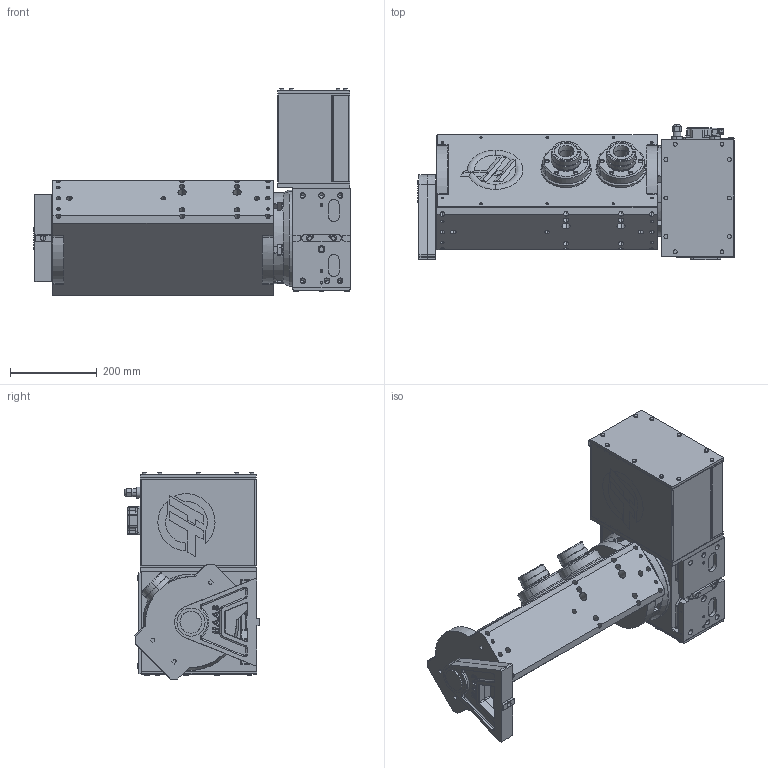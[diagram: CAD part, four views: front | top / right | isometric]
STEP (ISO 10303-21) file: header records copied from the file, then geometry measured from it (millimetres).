
FILE_DESCRIPTION (( 'STEP AP214' ), '1' );
FILE_NAME ('T5C2_STEP_12_2021.STEP', '2021-12-17T23:24:21', ( '' ), ( '' ), 'SwSTEP 2.0', 'SolidWorks 2021', '' );
FILE_SCHEMA (( 'AUTOMOTIVE_DESIGN' ));
Length unit declared in the file: inch
Products named in the file (5): T5C2_A-AXIS; T5C2_1-B-AXIS; T5C2-BODY; T5C2_2-B-AXIS; T5C2_STEP_12_2021
Assembly tree (4 placements, depth 2):
  T5C2_STEP_12_2021
    T5C2_A-AXIS
    T5C2_2-B-AXIS
    T5C2_1-B-AXIS
    T5C2-BODY
Bounding box: 731.52 x 312.75 x 475.84 mm (x, y, z)
Volume: 30865877.1 mm3; surface area: 1768493.5 mm2
Topology: 5 solids, 36 shells, 2553 faces, 6208 edges, 3858 vertices
Faces by surface type: cylinder 1002, plane 958, cone 347, torus 138, bspline 76, sphere 32
Entity records: 111868 total; most frequent: CARTESIAN_POINT 20490, DIRECTION 12773, ORIENTED_EDGE 12264, EDGE_CURVE 6132, AXIS2_PLACEMENT_3D 4959, VERTEX_POINT 3858, VECTOR 2855, LINE 2855
